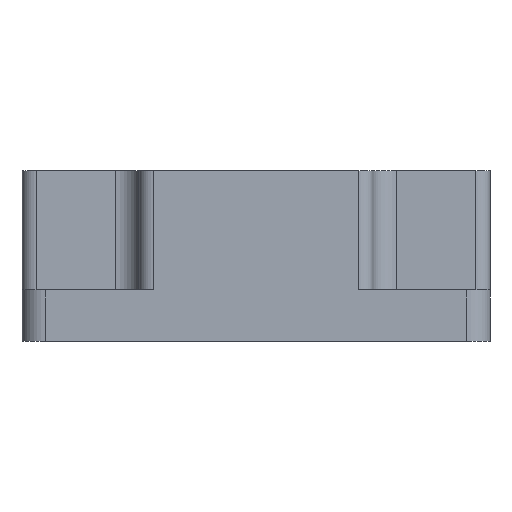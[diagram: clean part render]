
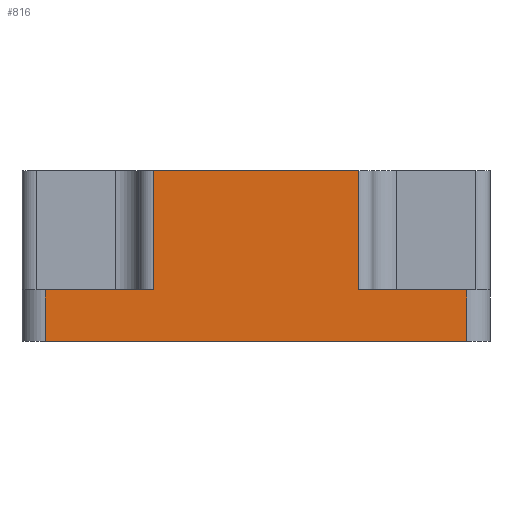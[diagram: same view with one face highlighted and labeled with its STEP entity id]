
A CAD part, front view. The second image highlights one B-rep face of the part: STEP entity #816.
In plain terms, the highlighted planar face has unit normal (0, -1, 0).
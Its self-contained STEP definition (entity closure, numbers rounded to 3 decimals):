
#764=AXIS2_PLACEMENT_3D('Plane Axis2P3D',#761,#762,#763) ;
#205=CARTESIAN_POINT('Vertex',(20.,0.,-36.5)) ;
#208=CARTESIAN_POINT('Line Origine',(-25.,0.,-36.5)) ;
#212=CARTESIAN_POINT('Vertex',(-70.,0.,-36.5)) ;
#746=CARTESIAN_POINT('Vertex',(20.,0.,-25.5)) ;
#749=CARTESIAN_POINT('Line Origine',(20.,0.,-18.25)) ;
#761=CARTESIAN_POINT('Axis2P3D Location',(0.,0.,0.)) ;
#766=CARTESIAN_POINT('Line Origine',(-47.,0.,-12.75)) ;
#770=CARTESIAN_POINT('Vertex',(-47.,0.,-25.5)) ;
#772=CARTESIAN_POINT('Vertex',(-47.,0.,0.)) ;
#775=CARTESIAN_POINT('Line Origine',(-58.5,0.,-25.5)) ;
#779=CARTESIAN_POINT('Vertex',(-70.,0.,-25.5)) ;
#782=CARTESIAN_POINT('Line Origine',(-70.,0.,-31.)) ;
#787=CARTESIAN_POINT('Line Origine',(8.5,0.,-25.5)) ;
#791=CARTESIAN_POINT('Vertex',(-3.,0.,-25.5)) ;
#794=CARTESIAN_POINT('Line Origine',(-3.,0.,-12.75)) ;
#798=CARTESIAN_POINT('Vertex',(-3.,0.,0.)) ;
#801=CARTESIAN_POINT('Line Origine',(-25.,0.,0.)) ;
#209=DIRECTION('Vector Direction',(-1.,0.,0.)) ;
#750=DIRECTION('Vector Direction',(0.,0.,-1.)) ;
#762=DIRECTION('Axis2P3D Direction',(0.,1.,0.)) ;
#763=DIRECTION('Axis2P3D XDirection',(-1.,0.,0.)) ;
#767=DIRECTION('Vector Direction',(0.,0.,1.)) ;
#776=DIRECTION('Vector Direction',(-1.,0.,0.)) ;
#783=DIRECTION('Vector Direction',(0.,0.,1.)) ;
#788=DIRECTION('Vector Direction',(-1.,0.,0.)) ;
#795=DIRECTION('Vector Direction',(0.,0.,-1.)) ;
#802=DIRECTION('Vector Direction',(1.,0.,0.)) ;
#210=VECTOR('Line Direction',#209,1.) ;
#751=VECTOR('Line Direction',#750,1.) ;
#768=VECTOR('Line Direction',#767,1.) ;
#777=VECTOR('Line Direction',#776,1.) ;
#784=VECTOR('Line Direction',#783,1.) ;
#789=VECTOR('Line Direction',#788,1.) ;
#796=VECTOR('Line Direction',#795,1.) ;
#803=VECTOR('Line Direction',#802,1.) ;
#807=ORIENTED_EDGE('',*,*,#774,.F.) ;
#808=ORIENTED_EDGE('',*,*,#781,.F.) ;
#809=ORIENTED_EDGE('',*,*,#786,.F.) ;
#810=ORIENTED_EDGE('',*,*,#214,.F.) ;
#811=ORIENTED_EDGE('',*,*,#753,.F.) ;
#812=ORIENTED_EDGE('',*,*,#793,.F.) ;
#813=ORIENTED_EDGE('',*,*,#800,.F.) ;
#814=ORIENTED_EDGE('',*,*,#805,.F.) ;
#816=ADVANCED_FACE('\X2\96F64EF651E04F554F53\X0\',(#815),#765,.F.) ;
#214=EDGE_CURVE('',#206,#213,#211,.T.) ;
#753=EDGE_CURVE('',#747,#206,#752,.T.) ;
#774=EDGE_CURVE('',#771,#773,#769,.T.) ;
#781=EDGE_CURVE('',#780,#771,#778,.F.) ;
#786=EDGE_CURVE('',#213,#780,#785,.T.) ;
#793=EDGE_CURVE('',#792,#747,#790,.F.) ;
#800=EDGE_CURVE('',#799,#792,#797,.T.) ;
#805=EDGE_CURVE('',#773,#799,#804,.T.) ;
#806=EDGE_LOOP('',(#807,#808,#809,#810,#811,#812,#813,#814)) ;
#815=FACE_OUTER_BOUND('',#806,.T.) ;
#211=LINE('Line',#208,#210) ;
#752=LINE('Line',#749,#751) ;
#769=LINE('Line',#766,#768) ;
#778=LINE('Line',#775,#777) ;
#785=LINE('Line',#782,#784) ;
#790=LINE('Line',#787,#789) ;
#797=LINE('Line',#794,#796) ;
#804=LINE('Line',#801,#803) ;
#765=PLANE('',#764) ;
#206=VERTEX_POINT('',#205) ;
#213=VERTEX_POINT('',#212) ;
#747=VERTEX_POINT('',#746) ;
#771=VERTEX_POINT('',#770) ;
#773=VERTEX_POINT('',#772) ;
#780=VERTEX_POINT('',#779) ;
#792=VERTEX_POINT('',#791) ;
#799=VERTEX_POINT('',#798) ;
